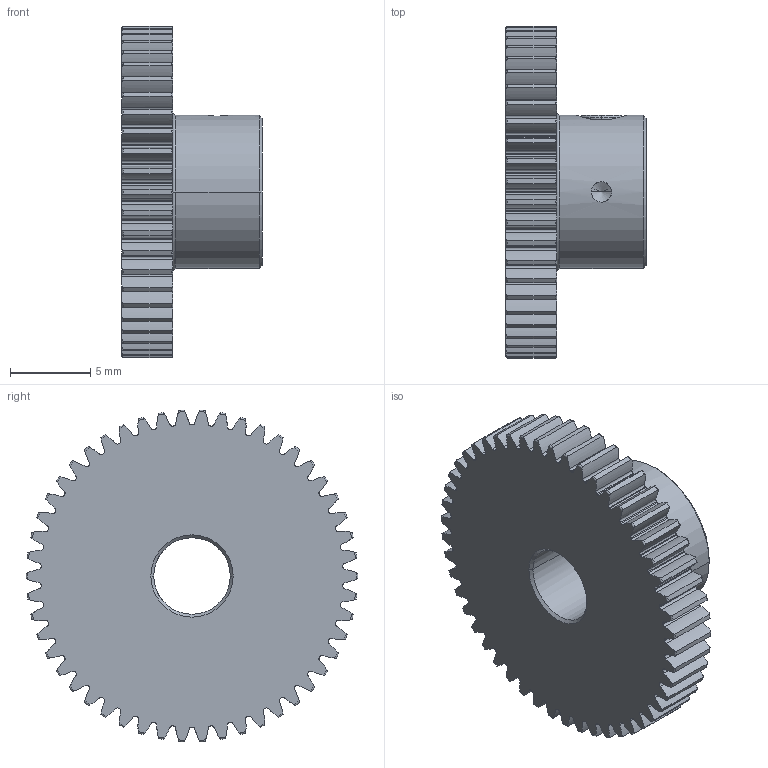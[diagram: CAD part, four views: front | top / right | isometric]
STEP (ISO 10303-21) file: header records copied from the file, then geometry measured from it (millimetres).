
FILE_DESCRIPTION((''),'2;1');
FILE_NAME('38966','2011-01-23T',('carefree'),(''),'PRO/ENGINEER BY PARAMETRIC TECHNOLOGY CORPORATION, 2005030','PRO/ENGINEER BY PARAMETRIC TECHNOLOGY CORPORATION, 2005030','');
FILE_SCHEMA(('CONFIG_CONTROL_DESIGN'));
Length unit declared in the file: inch
Products named in the file (1): 38966
Bounding box: 8.71 x 20.64 x 20.61 mm (x, y, z)
Volume: 1208.1 mm3; surface area: 1308.4 mm2
Topology: 2 solids, 2 shells, 446 faces, 1299 edges, 857 vertices
Faces by surface type: cylinder 212, torus 102, extrusion 100, plane 18, cone 12, bspline 2
Entity records: 18911 total; most frequent: CARTESIAN_POINT 7384, ORIENTED_EDGE 2594, DIRECTION 2207, EDGE_CURVE 1297, AXIS2_PLACEMENT_3D 876, VERTEX_POINT 857, CIRCLE 532, B_SPLINE_CURVE_WITH_KNOTS 510
